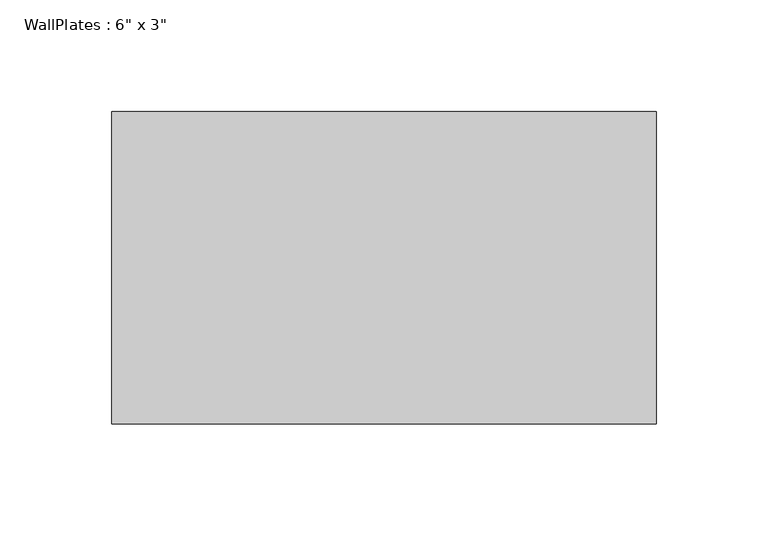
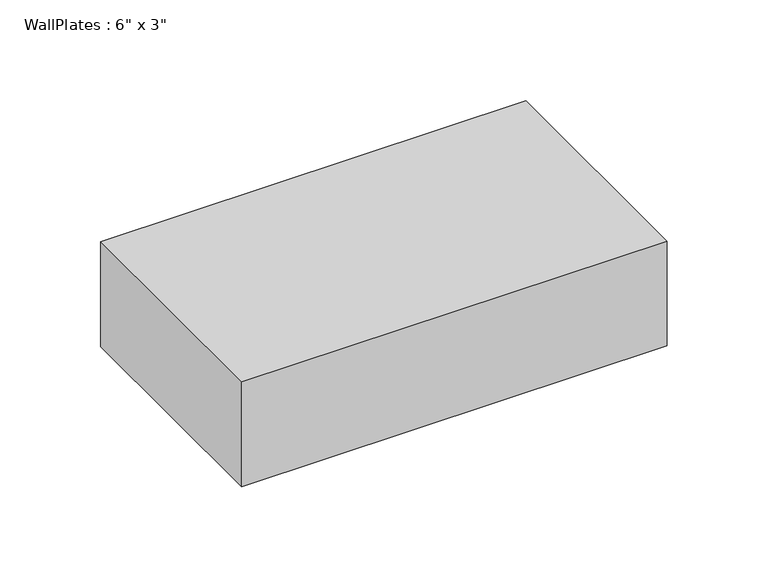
"""IFC4 building model written with IfcOpenShell, lengths in millimetres: beam geometry."""

from ifc_helpers import new_model, si_unit, frame, origin, place, context, project, spatial, polyline, outline, extrude, source, transform, mapped, element, save


def beam_69d239ac(model_context):
    return source(origin(), model_context, "Body", "SweptSolid", [
        extrude(outline(polyline([(-121.6025, -69.85), (-121.6025, 69.85), (121.6025, 69.85), (121.6025, -69.85), (-121.6025, -69.85)])), frame((0.0, 0.0, -31.75), z_axis=(0.0, 0.0, 1.0), x_axis=(1.0, 0.0, 0.0)), (0.0, 0.0, 1.0), 63.5),
    ])


if __name__ == "__main__":
    model = new_model("IFC4")
    model_context = context("Model", 3, world=origin())
    ifc_project = project(units=[si_unit("LENGTHUNIT", "METRE", prefix="MILLI")], contexts=[model_context])
    site = spatial("IfcSite", under=ifc_project)
    building = spatial("IfcBuilding", under=site)
    placement = place(None, origin())
    beam_shape = beam_69d239ac(model_context)
    element("IfcBeam", 1, ObjectType="WallPlates : 6\" x 3\"", at=placement, inside=building, context=model_context, shape_type="MappedRepresentation", body=[
        mapped(beam_shape, transform((0.0, 0.0, 0.0), x_axis=(1.0, 0.0, 0.0), y_axis=(0.0, 1.0, 0.0), z_axis=(0.0, 0.0, 1.0))),
    ])
    save(model, "model.ifc")
